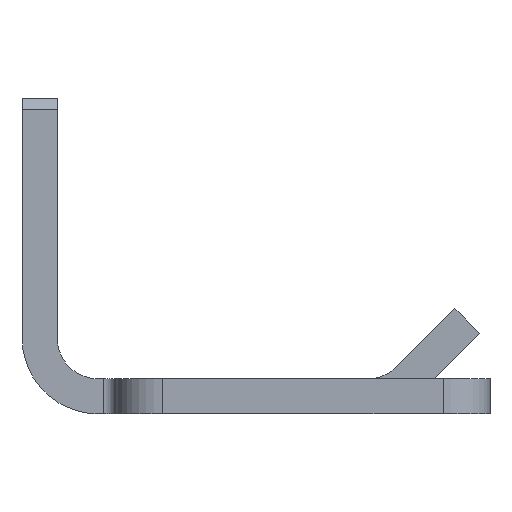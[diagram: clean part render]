
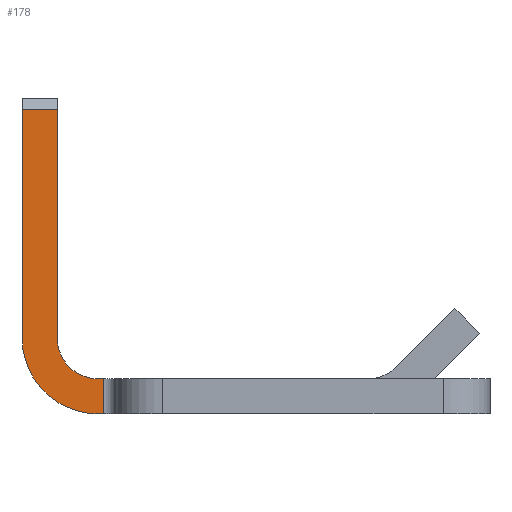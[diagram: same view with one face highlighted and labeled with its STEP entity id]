
A CAD part, front view. The second image highlights one B-rep face of the part: STEP entity #178.
In plain terms, the highlighted planar face has unit normal (0, -1, 0).
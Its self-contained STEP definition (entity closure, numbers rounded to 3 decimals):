
#178 = ADVANCED_FACE( '', ( #404 ), #405, .T. );
#404 = FACE_OUTER_BOUND( '', #644, .T. );
#405 = PLANE( '', #645 );
#644 = EDGE_LOOP( '', ( #1499, #1500, #1501, #1502, #1503, #1504, #1505, #1506 ) );
#645 = AXIS2_PLACEMENT_3D( '', #1507, #1508, #1509 );
#1499 = ORIENTED_EDGE( '', *, *, #1713, .T. );
#1500 = ORIENTED_EDGE( '', *, *, #1822, .F. );
#1501 = ORIENTED_EDGE( '', *, *, #1816, .T. );
#1502 = ORIENTED_EDGE( '', *, *, #1813, .F. );
#1503 = ORIENTED_EDGE( '', *, *, #1821, .T. );
#1504 = ORIENTED_EDGE( '', *, *, #1824, .F. );
#1505 = ORIENTED_EDGE( '', *, *, #1934, .T. );
#1506 = ORIENTED_EDGE( '', *, *, #1932, .T. );
#1507 = CARTESIAN_POINT( '', ( -1., -16.5, 0. ) );
#1508 = DIRECTION( '', ( 0., -1., 0. ) );
#1509 = DIRECTION( '', ( 1., 0., 0. ) );
#1713 = EDGE_CURVE( '', #2096, #2094, #2097, .T. );
#1813 = EDGE_CURVE( '', #2275, #2270, #2277, .T. );
#1816 = EDGE_CURVE( '', #2280, #2270, #2281, .T. );
#1821 = EDGE_CURVE( '', #2275, #2287, #2289, .T. );
#1822 = EDGE_CURVE( '', #2280, #2094, #2290, .T. );
#1824 = EDGE_CURVE( '', #2292, #2287, #2293, .T. );
#1932 = EDGE_CURVE( '', #2451, #2096, #2452, .T. );
#1934 = EDGE_CURVE( '', #2292, #2451, #2454, .T. );
#2094 = VERTEX_POINT( '', #2666 );
#2096 = VERTEX_POINT( '', #2669 );
#2097 = LINE( '', #2670, #2671 );
#2270 = VERTEX_POINT( '', #2912 );
#2275 = VERTEX_POINT( '', #2919 );
#2277 = LINE( '', #2922, #2923 );
#2280 = VERTEX_POINT( '', #2928 );
#2281 = LINE( '', #2929, #2930 );
#2287 = VERTEX_POINT( '', #2939 );
#2289 = LINE( '', #2942, #2943 );
#2290 = CIRCLE( '', #2944, 3.5 );
#2292 = VERTEX_POINT( '', #2946 );
#2293 = CIRCLE( '', #2947, 6.5 );
#2451 = VERTEX_POINT( '', #3178 );
#2452 = LINE( '', #3179, #3180 );
#2454 = LINE( '', #3182, #3183 );
#2666 = CARTESIAN_POINT( '', ( -1.5, -16.5, 3. ) );
#2669 = CARTESIAN_POINT( '', ( -1., -16.5, 3. ) );
#2670 = CARTESIAN_POINT( '', ( -1.5, -16.5, 3. ) );
#2671 = VECTOR( '', #3361, 1. );
#2912 = CARTESIAN_POINT( '', ( -5., -16.5, 26. ) );
#2919 = CARTESIAN_POINT( '', ( -8., -16.5, 26. ) );
#2922 = CARTESIAN_POINT( '', ( -8., -16.5, 26. ) );
#2923 = VECTOR( '', #3517, 1. );
#2928 = CARTESIAN_POINT( '', ( -5., -16.5, 6.5 ) );
#2929 = CARTESIAN_POINT( '', ( -5., -16.5, 26. ) );
#2930 = VECTOR( '', #3520, 1. );
#2939 = CARTESIAN_POINT( '', ( -8., -16.5, 6.5 ) );
#2942 = CARTESIAN_POINT( '', ( -8., -16.5, 26. ) );
#2943 = VECTOR( '', #3525, 1. );
#2944 = AXIS2_PLACEMENT_3D( '', #3526, #3527, #3528 );
#2946 = CARTESIAN_POINT( '', ( -1.5, -16.5, 0. ) );
#2947 = AXIS2_PLACEMENT_3D( '', #3532, #3533, #3534 );
#3178 = CARTESIAN_POINT( '', ( -1., -16.5, 0. ) );
#3179 = CARTESIAN_POINT( '', ( -1., -16.5, 0. ) );
#3180 = VECTOR( '', #3710, 1. );
#3182 = CARTESIAN_POINT( '', ( -1.5, -16.5, 0. ) );
#3183 = VECTOR( '', #3714, 1. );
#3361 = DIRECTION( '', ( -1., 0., 0. ) );
#3517 = DIRECTION( '', ( 1., 0., 0. ) );
#3520 = DIRECTION( '', ( 0., 0., 1. ) );
#3525 = DIRECTION( '', ( 0., 0., -1. ) );
#3526 = CARTESIAN_POINT( '', ( -1.5, -16.5, 6.5 ) );
#3527 = DIRECTION( '', ( 0., -1., 0. ) );
#3528 = DIRECTION( '', ( -1., 0., 0. ) );
#3532 = CARTESIAN_POINT( '', ( -1.5, -16.5, 6.5 ) );
#3533 = DIRECTION( '', ( 0., 1., 0. ) );
#3534 = DIRECTION( '', ( 0., 0., -1. ) );
#3710 = DIRECTION( '', ( 0., 0., 1. ) );
#3714 = DIRECTION( '', ( 1., 0., 0. ) );
